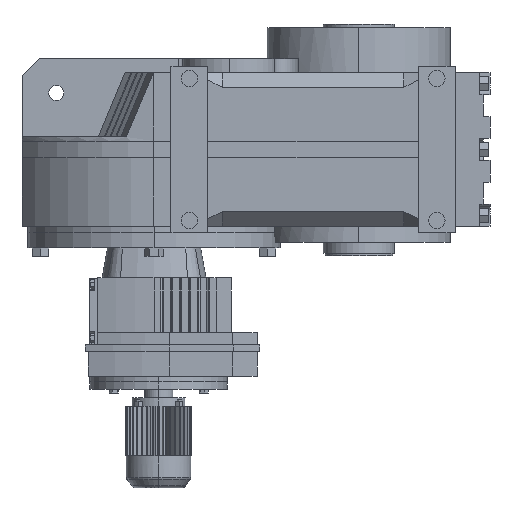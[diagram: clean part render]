
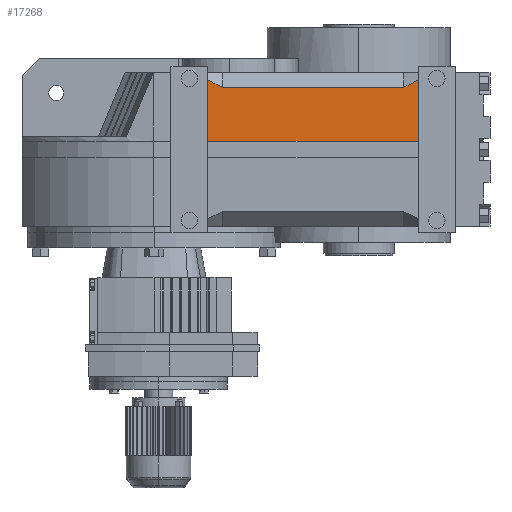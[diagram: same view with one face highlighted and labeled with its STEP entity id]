
A CAD part, left-side view. The second image highlights one B-rep face of the part: STEP entity #17268.
In plain terms, the highlighted planar face has unit normal (-1, 0, 0).
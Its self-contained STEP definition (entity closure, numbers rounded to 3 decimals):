
#2819 = PLANE('',#2820);
#2820 = AXIS2_PLACEMENT_3D('',#2821,#2822,#2823);
#2821 = CARTESIAN_POINT('',(-260.44,-117.,0.));
#2822 = DIRECTION('',(0.,-1.,0.));
#2823 = DIRECTION('',(1.,0.,0.));
#2847 = PLANE('',#2848);
#2848 = AXIS2_PLACEMENT_3D('',#2849,#2850,#2851);
#2849 = CARTESIAN_POINT('',(-454.896,-117.,194.456));
#2850 = DIRECTION('',(-0.664,-0.342,0.664));
#2851 = DIRECTION('',(0.707,0.,0.707)
  );
#2875 = PLANE('',#2876);
#2876 = AXIS2_PLACEMENT_3D('',#2877,#2878,#2879);
#2877 = CARTESIAN_POINT('',(-283.44,1.,349.44));
#2878 = DIRECTION('',(-0.707,0.,
    0.707));
#2879 = DIRECTION('',(0.707,0.,0.707));
#2903 = PLANE('',#2904);
#2904 = AXIS2_PLACEMENT_3D('',#2905,#2906,#2907);
#2905 = CARTESIAN_POINT('',(-454.896,-577.,194.456));
#2906 = DIRECTION('',(-0.664,0.342,0.664));
#2907 = DIRECTION('',(0.707,0.,0.707));
#2931 = PLANE('',#2932);
#2932 = AXIS2_PLACEMENT_3D('',#2933,#2934,#2935);
#2933 = CARTESIAN_POINT('',(-260.44,-577.,0.));
#2934 = DIRECTION('',(0.,1.,0.));
#2935 = DIRECTION('',(0.,0.,1.));
#8391 = VERTEX_POINT('',#8392);
#8392 = CARTESIAN_POINT('',(-315.44,-149.,317.44));
#8413 = EDGE_CURVE('',#8414,#8391,#8416,.T.);
#8414 = VERTEX_POINT('',#8415);
#8415 = CARTESIAN_POINT('',(-315.44,-545.,317.44));
#8416 = SURFACE_CURVE('',#8417,(#8421,#8428),.PCURVE_S1.);
#8417 = LINE('',#8418,#8419);
#8418 = CARTESIAN_POINT('',(-315.44,-117.,317.44));
#8419 = VECTOR('',#8420,1.);
#8420 = DIRECTION('',(0.,1.,0.));
#8421 = PCURVE('',#2875,#8422);
#8422 = DEFINITIONAL_REPRESENTATION('',(#8423),#8427);
#8423 = LINE('',#8424,#8425);
#8424 = CARTESIAN_POINT('',(-45.255,-118.));
#8425 = VECTOR('',#8426,1.);
#8426 = DIRECTION('',(0.,1.));
#8427 = ( GEOMETRIC_REPRESENTATION_CONTEXT(2) 
PARAMETRIC_REPRESENTATION_CONTEXT() REPRESENTATION_CONTEXT('2D SPACE',''
  ) );
#8428 = PCURVE('',#8429,#8434);
#8429 = PLANE('',#8430);
#8430 = AXIS2_PLACEMENT_3D('',#8431,#8432,#8433);
#8431 = CARTESIAN_POINT('',(-315.44,-733.,349.44));
#8432 = DIRECTION('',(1.,0.,0.));
#8433 = DIRECTION('',(0.,1.,0.));
#8434 = DEFINITIONAL_REPRESENTATION('',(#8435),#8439);
#8435 = LINE('',#8436,#8437);
#8436 = CARTESIAN_POINT('',(616.,-32.));
#8437 = VECTOR('',#8438,1.);
#8438 = DIRECTION('',(1.,0.));
#8439 = ( GEOMETRIC_REPRESENTATION_CONTEXT(2) 
PARAMETRIC_REPRESENTATION_CONTEXT() REPRESENTATION_CONTEXT('2D SPACE',''
  ) );
#9571 = VERTEX_POINT('',#9572);
#9572 = CARTESIAN_POINT('',(-315.44,-117.,200.2));
#9586 = PLANE('',#9587);
#9587 = AXIS2_PLACEMENT_3D('',#9588,#9589,#9590);
#9588 = CARTESIAN_POINT('',(14.732,1.,200.2));
#9589 = DIRECTION('',(0.,0.,-1.));
#9590 = DIRECTION('',(-1.,0.,0.));
#9598 = EDGE_CURVE('',#9599,#9571,#9601,.T.);
#9599 = VERTEX_POINT('',#9600);
#9600 = CARTESIAN_POINT('',(-315.44,-117.,333.911));
#9601 = SURFACE_CURVE('',#9602,(#9606,#9613),.PCURVE_S1.);
#9602 = LINE('',#9603,#9604);
#9603 = CARTESIAN_POINT('',(-315.44,-117.,349.44));
#9604 = VECTOR('',#9605,1.);
#9605 = DIRECTION('',(0.,0.,-1.));
#9606 = PCURVE('',#2819,#9607);
#9607 = DEFINITIONAL_REPRESENTATION('',(#9608),#9612);
#9608 = LINE('',#9609,#9610);
#9609 = CARTESIAN_POINT('',(-55.,349.44));
#9610 = VECTOR('',#9611,1.);
#9611 = DIRECTION('',(0.,-1.));
#9612 = ( GEOMETRIC_REPRESENTATION_CONTEXT(2) 
PARAMETRIC_REPRESENTATION_CONTEXT() REPRESENTATION_CONTEXT('2D SPACE',''
  ) );
#9613 = PCURVE('',#8429,#9614);
#9614 = DEFINITIONAL_REPRESENTATION('',(#9615),#9619);
#9615 = LINE('',#9616,#9617);
#9616 = CARTESIAN_POINT('',(616.,0.));
#9617 = VECTOR('',#9618,1.);
#9618 = DIRECTION('',(0.,-1.));
#9619 = ( GEOMETRIC_REPRESENTATION_CONTEXT(2) 
PARAMETRIC_REPRESENTATION_CONTEXT() REPRESENTATION_CONTEXT('2D SPACE',''
  ) );
#10331 = EDGE_CURVE('',#10332,#8414,#10334,.T.);
#10332 = VERTEX_POINT('',#10333);
#10333 = CARTESIAN_POINT('',(-315.44,-577.,333.911));
#10334 = SURFACE_CURVE('',#10335,(#10339,#10346),.PCURVE_S1.);
#10335 = LINE('',#10336,#10337);
#10336 = CARTESIAN_POINT('',(-315.44,-706.644,400.643));
#10337 = VECTOR('',#10338,1.);
#10338 = DIRECTION('',(0.,0.889,
    -0.458));
#10339 = PCURVE('',#2903,#10340);
#10340 = DEFINITIONAL_REPRESENTATION('',(#10341),#10345);
#10341 = LINE('',#10342,#10343);
#10342 = CARTESIAN_POINT('',(244.407,-137.964));
#10343 = VECTOR('',#10344,1.);
#10344 = DIRECTION('',(-0.324,0.946));
#10345 = ( GEOMETRIC_REPRESENTATION_CONTEXT(2) 
PARAMETRIC_REPRESENTATION_CONTEXT() REPRESENTATION_CONTEXT('2D SPACE',''
  ) );
#10346 = PCURVE('',#8429,#10347);
#10347 = DEFINITIONAL_REPRESENTATION('',(#10348),#10352);
#10348 = LINE('',#10349,#10350);
#10349 = CARTESIAN_POINT('',(26.356,51.203));
#10350 = VECTOR('',#10351,1.);
#10351 = DIRECTION('',(0.889,-0.458));
#10352 = ( GEOMETRIC_REPRESENTATION_CONTEXT(2) 
PARAMETRIC_REPRESENTATION_CONTEXT() REPRESENTATION_CONTEXT('2D SPACE',''
  ) );
#11869 = EDGE_CURVE('',#11870,#10332,#11872,.T.);
#11870 = VERTEX_POINT('',#11871);
#11871 = CARTESIAN_POINT('',(-315.44,-577.,200.2));
#11872 = SURFACE_CURVE('',#11873,(#11877,#11884),.PCURVE_S1.);
#11873 = LINE('',#11874,#11875);
#11874 = CARTESIAN_POINT('',(-315.44,-577.,349.44));
#11875 = VECTOR('',#11876,1.);
#11876 = DIRECTION('',(0.,0.,1.));
#11877 = PCURVE('',#2931,#11878);
#11878 = DEFINITIONAL_REPRESENTATION('',(#11879),#11883);
#11879 = LINE('',#11880,#11881);
#11880 = CARTESIAN_POINT('',(349.44,-55.));
#11881 = VECTOR('',#11882,1.);
#11882 = DIRECTION('',(1.,0.));
#11883 = ( GEOMETRIC_REPRESENTATION_CONTEXT(2) 
PARAMETRIC_REPRESENTATION_CONTEXT() REPRESENTATION_CONTEXT('2D SPACE',''
  ) );
#11884 = PCURVE('',#8429,#11885);
#11885 = DEFINITIONAL_REPRESENTATION('',(#11886),#11890);
#11886 = LINE('',#11887,#11888);
#11887 = CARTESIAN_POINT('',(156.,0.));
#11888 = VECTOR('',#11889,1.);
#11889 = DIRECTION('',(0.,1.));
#11890 = ( GEOMETRIC_REPRESENTATION_CONTEXT(2) 
PARAMETRIC_REPRESENTATION_CONTEXT() REPRESENTATION_CONTEXT('2D SPACE',''
  ) );
#13338 = EDGE_CURVE('',#8391,#9599,#13339,.T.);
#13339 = SURFACE_CURVE('',#13340,(#13344,#13351),.PCURVE_S1.);
#13340 = LINE('',#13341,#13342);
#13341 = CARTESIAN_POINT('',(-315.44,-597.657,86.502));
#13342 = VECTOR('',#13343,1.);
#13343 = DIRECTION('',(0.,0.889,
    0.458));
#13344 = PCURVE('',#2847,#13345);
#13345 = DEFINITIONAL_REPRESENTATION('',(#13346),#13350);
#13346 = LINE('',#13347,#13348);
#13347 = CARTESIAN_POINT('',(22.275,-511.505));
#13348 = VECTOR('',#13349,1.);
#13349 = DIRECTION('',(0.324,0.946));
#13350 = ( GEOMETRIC_REPRESENTATION_CONTEXT(2) 
PARAMETRIC_REPRESENTATION_CONTEXT() REPRESENTATION_CONTEXT('2D SPACE',''
  ) );
#13351 = PCURVE('',#8429,#13352);
#13352 = DEFINITIONAL_REPRESENTATION('',(#13353),#13357);
#13353 = LINE('',#13354,#13355);
#13354 = CARTESIAN_POINT('',(135.343,-262.938));
#13355 = VECTOR('',#13356,1.);
#13356 = DIRECTION('',(0.889,0.458));
#13357 = ( GEOMETRIC_REPRESENTATION_CONTEXT(2) 
PARAMETRIC_REPRESENTATION_CONTEXT() REPRESENTATION_CONTEXT('2D SPACE',''
  ) );
#17268 = ADVANCED_FACE('',(#17269),#8429,.F.);
#17269 = FACE_BOUND('',#17270,.T.);
#17270 = EDGE_LOOP('',(#17271,#17272,#17273,#17274,#17275,#17276));
#17271 = ORIENTED_EDGE('',*,*,#11869,.T.);
#17272 = ORIENTED_EDGE('',*,*,#10331,.T.);
#17273 = ORIENTED_EDGE('',*,*,#8413,.T.);
#17274 = ORIENTED_EDGE('',*,*,#13338,.T.);
#17275 = ORIENTED_EDGE('',*,*,#9598,.T.);
#17276 = ORIENTED_EDGE('',*,*,#17277,.F.);
#17277 = EDGE_CURVE('',#11870,#9571,#17278,.T.);
#17278 = SURFACE_CURVE('',#17279,(#17283,#17290),.PCURVE_S1.);
#17279 = LINE('',#17280,#17281);
#17280 = CARTESIAN_POINT('',(-315.44,-733.,200.2));
#17281 = VECTOR('',#17282,1.);
#17282 = DIRECTION('',(0.,1.,0.));
#17283 = PCURVE('',#8429,#17284);
#17284 = DEFINITIONAL_REPRESENTATION('',(#17285),#17289);
#17285 = LINE('',#17286,#17287);
#17286 = CARTESIAN_POINT('',(0.,-149.24));
#17287 = VECTOR('',#17288,1.);
#17288 = DIRECTION('',(1.,0.));
#17289 = ( GEOMETRIC_REPRESENTATION_CONTEXT(2) 
PARAMETRIC_REPRESENTATION_CONTEXT() REPRESENTATION_CONTEXT('2D SPACE',''
  ) );
#17290 = PCURVE('',#9586,#17291);
#17291 = DEFINITIONAL_REPRESENTATION('',(#17292),#17296);
#17292 = LINE('',#17293,#17294);
#17293 = CARTESIAN_POINT('',(330.172,-734.));
#17294 = VECTOR('',#17295,1.);
#17295 = DIRECTION('',(0.,1.));
#17296 = ( GEOMETRIC_REPRESENTATION_CONTEXT(2) 
PARAMETRIC_REPRESENTATION_CONTEXT() REPRESENTATION_CONTEXT('2D SPACE',''
  ) );
